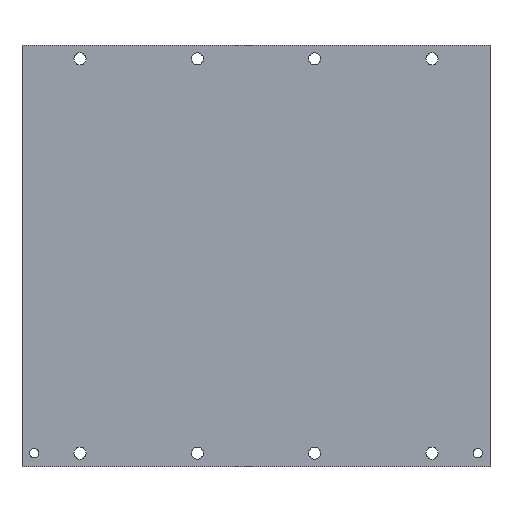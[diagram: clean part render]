
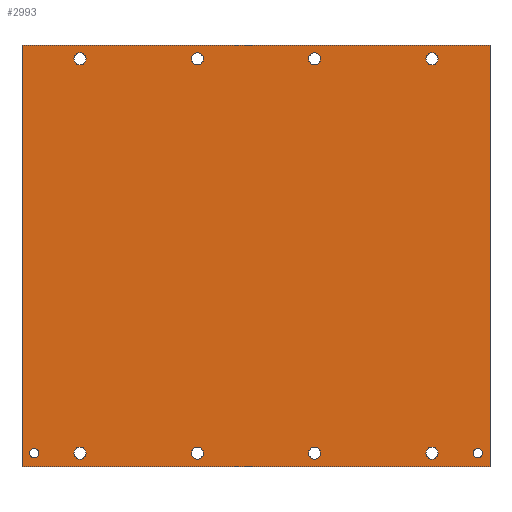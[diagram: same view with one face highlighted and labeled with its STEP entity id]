
A CAD part, front view. The second image highlights one B-rep face of the part: STEP entity #2993.
In plain terms, the highlighted planar face has unit normal (0, -1, 0).
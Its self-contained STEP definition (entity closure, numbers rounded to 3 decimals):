
#13=DIRECTION('',(0.,0.,1.));
#14=VECTOR('',#13,230.);
#15=CARTESIAN_POINT('',(127.65,0.,-115.));
#16=LINE('',#15,#14);
#17=DIRECTION('',(-1.,0.,0.));
#18=VECTOR('',#17,255.3);
#19=CARTESIAN_POINT('',(127.65,0.,115.));
#20=LINE('',#19,#18);
#21=DIRECTION('',(-1.,0.,0.));
#22=VECTOR('',#21,255.3);
#23=CARTESIAN_POINT('',(127.65,0.,-115.));
#24=LINE('',#23,#22);
#25=CARTESIAN_POINT('',(-96.,0.,-107.5));
#26=DIRECTION('',(0.,1.,0.));
#27=DIRECTION('',(1.,0.,0.));
#28=AXIS2_PLACEMENT_3D('',#25,#26,#27);
#30=CARTESIAN_POINT('',(-96.,0.,-107.5));
#31=DIRECTION('',(0.,1.,0.));
#32=DIRECTION('',(-1.,0.,0.));
#33=AXIS2_PLACEMENT_3D('',#30,#31,#32);
#35=CARTESIAN_POINT('',(-32.,0.,-107.5));
#36=DIRECTION('',(0.,1.,0.));
#37=DIRECTION('',(1.,0.,0.));
#38=AXIS2_PLACEMENT_3D('',#35,#36,#37);
#40=CARTESIAN_POINT('',(-32.,0.,-107.5));
#41=DIRECTION('',(0.,1.,0.));
#42=DIRECTION('',(-1.,0.,0.));
#43=AXIS2_PLACEMENT_3D('',#40,#41,#42);
#45=CARTESIAN_POINT('',(32.,0.,-107.5));
#46=DIRECTION('',(0.,1.,0.));
#47=DIRECTION('',(1.,0.,0.));
#48=AXIS2_PLACEMENT_3D('',#45,#46,#47);
#50=CARTESIAN_POINT('',(32.,0.,-107.5));
#51=DIRECTION('',(0.,1.,0.));
#52=DIRECTION('',(-1.,0.,0.));
#53=AXIS2_PLACEMENT_3D('',#50,#51,#52);
#55=CARTESIAN_POINT('',(96.,0.,-107.5));
#56=DIRECTION('',(0.,1.,0.));
#57=DIRECTION('',(1.,0.,0.));
#58=AXIS2_PLACEMENT_3D('',#55,#56,#57);
#60=CARTESIAN_POINT('',(96.,0.,-107.5));
#61=DIRECTION('',(0.,1.,0.));
#62=DIRECTION('',(-1.,0.,0.));
#63=AXIS2_PLACEMENT_3D('',#60,#61,#62);
#65=CARTESIAN_POINT('',(-96.,0.,107.5));
#66=DIRECTION('',(0.,1.,0.));
#67=DIRECTION('',(1.,0.,0.));
#68=AXIS2_PLACEMENT_3D('',#65,#66,#67);
#70=CARTESIAN_POINT('',(-96.,0.,107.5));
#71=DIRECTION('',(0.,1.,0.));
#72=DIRECTION('',(-1.,0.,0.));
#73=AXIS2_PLACEMENT_3D('',#70,#71,#72);
#75=CARTESIAN_POINT('',(-32.,0.,107.5));
#76=DIRECTION('',(0.,1.,0.));
#77=DIRECTION('',(1.,0.,0.));
#78=AXIS2_PLACEMENT_3D('',#75,#76,#77);
#80=CARTESIAN_POINT('',(-32.,0.,107.5));
#81=DIRECTION('',(0.,1.,0.));
#82=DIRECTION('',(-1.,0.,0.));
#83=AXIS2_PLACEMENT_3D('',#80,#81,#82);
#85=CARTESIAN_POINT('',(32.,0.,107.5));
#86=DIRECTION('',(0.,1.,0.));
#87=DIRECTION('',(1.,0.,0.));
#88=AXIS2_PLACEMENT_3D('',#85,#86,#87);
#90=CARTESIAN_POINT('',(32.,0.,107.5));
#91=DIRECTION('',(0.,1.,0.));
#92=DIRECTION('',(-1.,0.,0.));
#93=AXIS2_PLACEMENT_3D('',#90,#91,#92);
#95=CARTESIAN_POINT('',(96.,0.,107.5));
#96=DIRECTION('',(0.,1.,0.));
#97=DIRECTION('',(1.,0.,0.));
#98=AXIS2_PLACEMENT_3D('',#95,#96,#97);
#100=CARTESIAN_POINT('',(96.,0.,107.5));
#101=DIRECTION('',(0.,1.,0.));
#102=DIRECTION('',(-1.,0.,0.));
#103=AXIS2_PLACEMENT_3D('',#100,#101,#102);
#105=CARTESIAN_POINT('',(-121.,0.,-107.5));
#106=DIRECTION('',(0.,-1.,0.));
#107=DIRECTION('',(1.,0.,0.));
#108=AXIS2_PLACEMENT_3D('',#105,#106,#107);
#110=CARTESIAN_POINT('',(-121.,0.,-107.5));
#111=DIRECTION('',(0.,-1.,0.));
#112=DIRECTION('',(-1.,0.,0.));
#113=AXIS2_PLACEMENT_3D('',#110,#111,#112);
#115=CARTESIAN_POINT('',(121.,0.,-107.5));
#116=DIRECTION('',(0.,-1.,0.));
#117=DIRECTION('',(1.,0.,0.));
#118=AXIS2_PLACEMENT_3D('',#115,#116,#117);
#120=CARTESIAN_POINT('',(121.,0.,-107.5));
#121=DIRECTION('',(0.,-1.,0.));
#122=DIRECTION('',(-1.,0.,0.));
#123=AXIS2_PLACEMENT_3D('',#120,#121,#122);
#781=DIRECTION('',(0.,0.,1.));
#782=VECTOR('',#781,230.);
#783=CARTESIAN_POINT('',(-127.65,0.,-115.));
#784=LINE('',#783,#782);
#2185=CARTESIAN_POINT('',(127.65,0.,115.));
#2187=VERTEX_POINT('',#2185);
#2191=CARTESIAN_POINT('',(127.65,0.,-115.));
#2192=VERTEX_POINT('',#2191);
#2193=CARTESIAN_POINT('',(-127.65,0.,115.));
#2195=VERTEX_POINT('',#2193);
#2199=CARTESIAN_POINT('',(-127.65,0.,-115.));
#2200=VERTEX_POINT('',#2199);
#2221=CARTESIAN_POINT('',(-118.445,0.,-107.5));
#2222=CARTESIAN_POINT('',(-123.555,0.,-107.5));
#2223=VERTEX_POINT('',#2221);
#2224=VERTEX_POINT('',#2222);
#2229=CARTESIAN_POINT('',(123.555,0.,-107.5));
#2230=CARTESIAN_POINT('',(118.445,0.,-107.5));
#2231=VERTEX_POINT('',#2229);
#2232=VERTEX_POINT('',#2230);
#2245=CARTESIAN_POINT('',(-92.7,0.,-107.5));
#2246=CARTESIAN_POINT('',(-99.3,0.,-107.5));
#2247=VERTEX_POINT('',#2245);
#2248=VERTEX_POINT('',#2246);
#2261=CARTESIAN_POINT('',(-28.7,0.,-107.5));
#2262=CARTESIAN_POINT('',(-35.3,0.,-107.5));
#2263=VERTEX_POINT('',#2261);
#2264=VERTEX_POINT('',#2262);
#2277=CARTESIAN_POINT('',(35.3,0.,-107.5));
#2278=CARTESIAN_POINT('',(28.7,0.,-107.5));
#2279=VERTEX_POINT('',#2277);
#2280=VERTEX_POINT('',#2278);
#2293=CARTESIAN_POINT('',(99.3,0.,-107.5));
#2294=CARTESIAN_POINT('',(92.7,0.,-107.5));
#2295=VERTEX_POINT('',#2293);
#2296=VERTEX_POINT('',#2294);
#2309=CARTESIAN_POINT('',(-92.7,0.,107.5));
#2310=CARTESIAN_POINT('',(-99.3,0.,107.5));
#2311=VERTEX_POINT('',#2309);
#2312=VERTEX_POINT('',#2310);
#2325=CARTESIAN_POINT('',(-28.7,0.,107.5));
#2326=CARTESIAN_POINT('',(-35.3,0.,107.5));
#2327=VERTEX_POINT('',#2325);
#2328=VERTEX_POINT('',#2326);
#2341=CARTESIAN_POINT('',(35.3,0.,107.5));
#2342=CARTESIAN_POINT('',(28.7,0.,107.5));
#2343=VERTEX_POINT('',#2341);
#2344=VERTEX_POINT('',#2342);
#2357=CARTESIAN_POINT('',(99.3,0.,107.5));
#2358=CARTESIAN_POINT('',(92.7,0.,107.5));
#2359=VERTEX_POINT('',#2357);
#2360=VERTEX_POINT('',#2358);
#2920=CARTESIAN_POINT('',(127.65,0.,-115.));
#2921=DIRECTION('',(0.,-1.,0.));
#2922=DIRECTION('',(0.,0.,1.));
#2923=AXIS2_PLACEMENT_3D('',#2920,#2921,#2922);
#2924=PLANE('',#2923);
#2925=ORIENTED_EDGE('',*,*,#2900,.F.);
#2927=ORIENTED_EDGE('',*,*,#2926,.T.);
#2929=ORIENTED_EDGE('',*,*,#2928,.T.);
#2930=ORIENTED_EDGE('',*,*,#2911,.F.);
#2931=EDGE_LOOP('',(#2925,#2927,#2929,#2930));
#2932=FACE_OUTER_BOUND('',#2931,.F.);
#2934=ORIENTED_EDGE('',*,*,#2933,.F.);
#2936=ORIENTED_EDGE('',*,*,#2935,.F.);
#2937=EDGE_LOOP('',(#2934,#2936));
#2938=FACE_BOUND('',#2937,.F.);
#2940=ORIENTED_EDGE('',*,*,#2939,.F.);
#2942=ORIENTED_EDGE('',*,*,#2941,.F.);
#2943=EDGE_LOOP('',(#2940,#2942));
#2944=FACE_BOUND('',#2943,.F.);
#2946=ORIENTED_EDGE('',*,*,#2945,.F.);
#2948=ORIENTED_EDGE('',*,*,#2947,.F.);
#2949=EDGE_LOOP('',(#2946,#2948));
#2950=FACE_BOUND('',#2949,.F.);
#2952=ORIENTED_EDGE('',*,*,#2951,.F.);
#2954=ORIENTED_EDGE('',*,*,#2953,.F.);
#2955=EDGE_LOOP('',(#2952,#2954));
#2956=FACE_BOUND('',#2955,.F.);
#2958=ORIENTED_EDGE('',*,*,#2957,.F.);
#2960=ORIENTED_EDGE('',*,*,#2959,.F.);
#2961=EDGE_LOOP('',(#2958,#2960));
#2962=FACE_BOUND('',#2961,.F.);
#2964=ORIENTED_EDGE('',*,*,#2963,.F.);
#2966=ORIENTED_EDGE('',*,*,#2965,.F.);
#2967=EDGE_LOOP('',(#2964,#2966));
#2968=FACE_BOUND('',#2967,.F.);
#2970=ORIENTED_EDGE('',*,*,#2969,.F.);
#2972=ORIENTED_EDGE('',*,*,#2971,.F.);
#2973=EDGE_LOOP('',(#2970,#2972));
#2974=FACE_BOUND('',#2973,.F.);
#2976=ORIENTED_EDGE('',*,*,#2975,.F.);
#2978=ORIENTED_EDGE('',*,*,#2977,.F.);
#2979=EDGE_LOOP('',(#2976,#2978));
#2980=FACE_BOUND('',#2979,.F.);
#2982=ORIENTED_EDGE('',*,*,#2981,.T.);
#2984=ORIENTED_EDGE('',*,*,#2983,.T.);
#2985=EDGE_LOOP('',(#2982,#2984));
#2986=FACE_BOUND('',#2985,.F.);
#2988=ORIENTED_EDGE('',*,*,#2987,.T.);
#2990=ORIENTED_EDGE('',*,*,#2989,.T.);
#2991=EDGE_LOOP('',(#2988,#2990));
#2992=FACE_BOUND('',#2991,.F.);
#2993=ADVANCED_FACE('',(#2932,#2938,#2944,#2950,#2956,#2962,#2968,#2974,#2980,
#2986,#2992),#2924,.T.);
#29=CIRCLE('',#28,3.3);
#34=CIRCLE('',#33,3.3);
#39=CIRCLE('',#38,3.3);
#44=CIRCLE('',#43,3.3);
#49=CIRCLE('',#48,3.3);
#54=CIRCLE('',#53,3.3);
#59=CIRCLE('',#58,3.3);
#64=CIRCLE('',#63,3.3);
#69=CIRCLE('',#68,3.3);
#74=CIRCLE('',#73,3.3);
#79=CIRCLE('',#78,3.3);
#84=CIRCLE('',#83,3.3);
#89=CIRCLE('',#88,3.3);
#94=CIRCLE('',#93,3.3);
#99=CIRCLE('',#98,3.3);
#104=CIRCLE('',#103,3.3);
#109=CIRCLE('',#108,2.555);
#114=CIRCLE('',#113,2.555);
#119=CIRCLE('',#118,2.555);
#124=CIRCLE('',#123,2.555);
#2900=EDGE_CURVE('',#2192,#2187,#16,.T.);
#2911=EDGE_CURVE('',#2187,#2195,#20,.T.);
#2926=EDGE_CURVE('',#2192,#2200,#24,.T.);
#2928=EDGE_CURVE('',#2200,#2195,#784,.T.);
#2933=EDGE_CURVE('',#2247,#2248,#29,.T.);
#2935=EDGE_CURVE('',#2248,#2247,#34,.T.);
#2939=EDGE_CURVE('',#2263,#2264,#39,.T.);
#2941=EDGE_CURVE('',#2264,#2263,#44,.T.);
#2945=EDGE_CURVE('',#2279,#2280,#49,.T.);
#2947=EDGE_CURVE('',#2280,#2279,#54,.T.);
#2951=EDGE_CURVE('',#2295,#2296,#59,.T.);
#2953=EDGE_CURVE('',#2296,#2295,#64,.T.);
#2957=EDGE_CURVE('',#2311,#2312,#69,.T.);
#2959=EDGE_CURVE('',#2312,#2311,#74,.T.);
#2963=EDGE_CURVE('',#2327,#2328,#79,.T.);
#2965=EDGE_CURVE('',#2328,#2327,#84,.T.);
#2969=EDGE_CURVE('',#2343,#2344,#89,.T.);
#2971=EDGE_CURVE('',#2344,#2343,#94,.T.);
#2975=EDGE_CURVE('',#2359,#2360,#99,.T.);
#2977=EDGE_CURVE('',#2360,#2359,#104,.T.);
#2981=EDGE_CURVE('',#2223,#2224,#109,.T.);
#2983=EDGE_CURVE('',#2224,#2223,#114,.T.);
#2987=EDGE_CURVE('',#2231,#2232,#119,.T.);
#2989=EDGE_CURVE('',#2232,#2231,#124,.T.);
